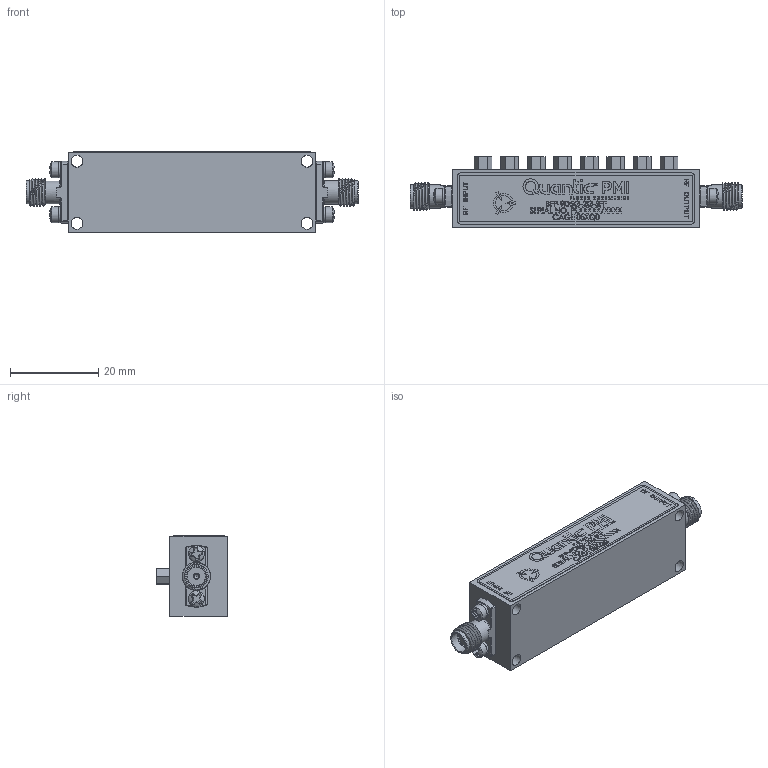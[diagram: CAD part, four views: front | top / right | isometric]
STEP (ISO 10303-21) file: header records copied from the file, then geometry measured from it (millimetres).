
FILE_DESCRIPTION (( 'STEP AP214' ), '1' );
FILE_NAME ('BPF-9D5G-2G-SFF.STEP', '2024-10-15T19:57:24', ( '' ), ( '' ), 'SwSTEP 2.0', 'SolidWorks 2024', '' );
FILE_SCHEMA (( 'AUTOMOTIVE_DESIGN' ));
Length unit declared in the file: inch
Products named in the file (1): BPF-9D5G-2G-SFF
Bounding box: 75.05 x 16 x 18.13 mm (x, y, z)
Volume: 13705.4 mm3; surface area: 7251.1 mm2
Topology: 16 solids, 16 shells, 538 faces, 2191 edges, 1827 vertices
Faces by surface type: plane 324, cylinder 96, torus 58, cone 28, bspline 28, sphere 4
Full cylindrical faces by diameter (mm): 0.381 x2, 0.508 x2, 0.635 x2, 1.016 x2, 1.27 x2, 1.778 x4, 1.943 x2, 2.184 x8, 2.591 x4, 2.7 x4, 3.556 x4, 4.191 x4, 4.597 x2, 5.283 x2, 5.334 x2
Entity records: 34807 total; most frequent: CARTESIAN_POINT 10076, ORIENTED_EDGE 4124, DIRECTION 2989, EDGE_CURVE 2062, VERTEX_POINT 1802, LINE 1235, VECTOR 1235, AXIS2_PLACEMENT_3D 877
